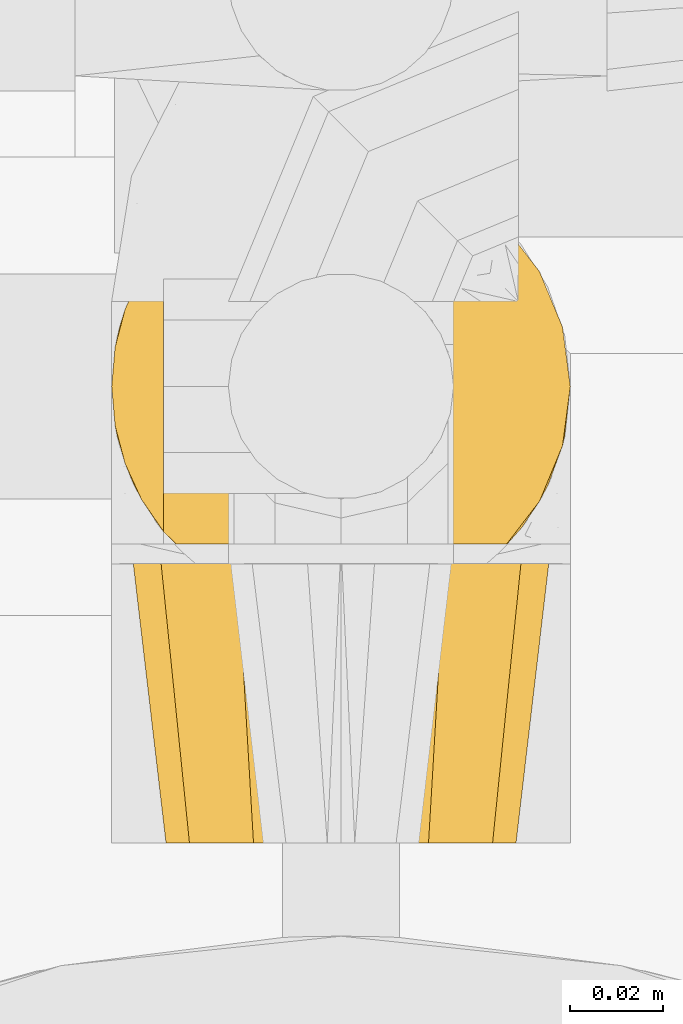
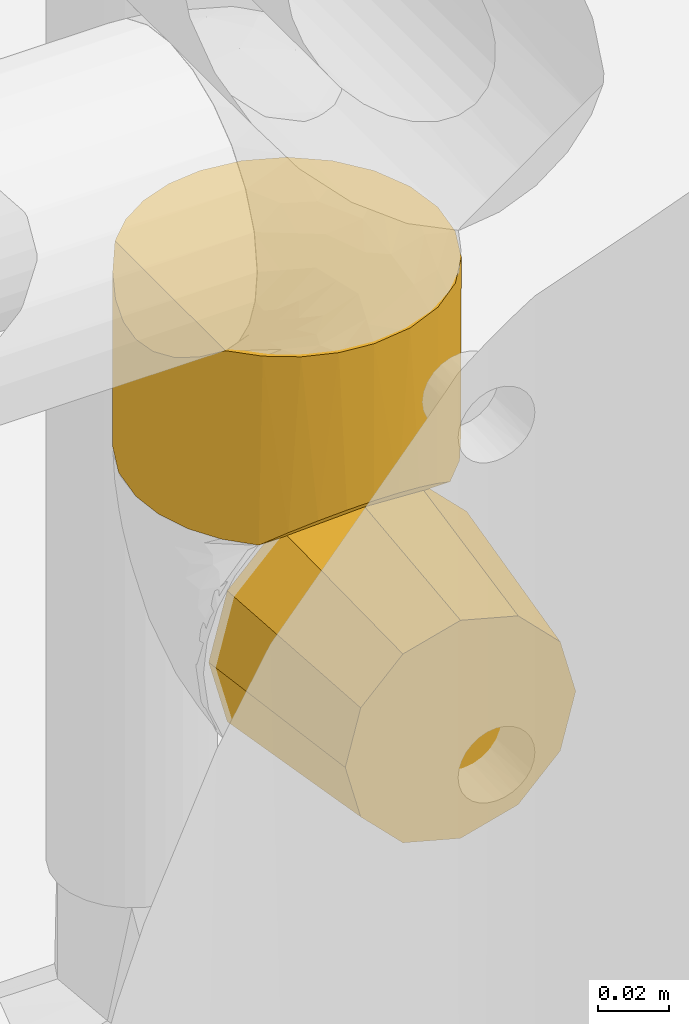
# One storey, part 35 of 94: 2 coverings.
"""IFC2X3 building model written with IfcOpenShell, lengths in millimetres."""

from ifc_helpers import new_model, entity, si_unit, converted_unit, derived_unit, direction, frame, origin, place, context, subcontext, project, spatial, faceted_brep, material, element, save


model = new_model("IFC2X3")

# Units and contexts
model_context = context("Model", 3, precision=0.01, world=origin(), true_north=direction((6.123031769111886e-17, 1.0)))
body_context = subcontext(model_context, "Body", "Model", "MODEL_VIEW")
ifc_project = project(units=[si_unit("LENGTHUNIT", "METRE", prefix="MILLI"), si_unit("AREAUNIT", "SQUARE_METRE"), si_unit("VOLUMEUNIT", "CUBIC_METRE"), converted_unit("PLANEANGLEUNIT", "DEGREE", entity("IfcRatioMeasure", 0.017453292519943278), si_unit("PLANEANGLEUNIT", "RADIAN"), dimensions=[0, 0, 0, 0, 0, 0, 0]), si_unit("MASSUNIT", "GRAM", prefix="KILO"), derived_unit("MASSDENSITYUNIT", [(si_unit("MASSUNIT", "GRAM", prefix="KILO"), 1), (si_unit("LENGTHUNIT", "METRE"), -3)]), derived_unit("IONCONCENTRATIONUNIT", [(si_unit("MASSUNIT", "GRAM", prefix="KILO"), 1), (si_unit("LENGTHUNIT", "METRE"), -3)]), derived_unit("MOMENTOFINERTIAUNIT", [(si_unit("LENGTHUNIT", "METRE"), 4)]), si_unit("TIMEUNIT", "SECOND"), si_unit("FREQUENCYUNIT", "HERTZ"), si_unit("THERMODYNAMICTEMPERATUREUNIT", "DEGREE_CELSIUS"), derived_unit("THERMALTRANSMITTANCEUNIT", [(si_unit("MASSUNIT", "GRAM", prefix="KILO"), 1), (si_unit("THERMODYNAMICTEMPERATUREUNIT", "KELVIN"), -1), (si_unit("TIMEUNIT", "SECOND"), -3)]), derived_unit("THERMALCONDUCTANCEUNIT", [(si_unit("MASSUNIT", "GRAM", prefix="KILO"), 1), (si_unit("THERMODYNAMICTEMPERATUREUNIT", "KELVIN"), -1), (si_unit("TIMEUNIT", "SECOND"), -3), (si_unit("LENGTHUNIT", "METRE"), 1)]), derived_unit("VOLUMETRICFLOWRATEUNIT", [(si_unit("LENGTHUNIT", "METRE"), 3), (si_unit("TIMEUNIT", "SECOND"), -1)]), derived_unit("MASSFLOWRATEUNIT", [(si_unit("MASSUNIT", "GRAM", prefix="KILO"), 1), (si_unit("TIMEUNIT", "SECOND"), -1)]), derived_unit("ROTATIONALFREQUENCYUNIT", [(si_unit("TIMEUNIT", "SECOND"), -1)]), si_unit("ELECTRICCURRENTUNIT", "AMPERE"), si_unit("ELECTRICVOLTAGEUNIT", "VOLT"), si_unit("POWERUNIT", "WATT"), si_unit("FORCEUNIT", "NEWTON", prefix="KILO"), si_unit("ILLUMINANCEUNIT", "LUX"), si_unit("LUMINOUSFLUXUNIT", "LUMEN"), si_unit("LUMINOUSINTENSITYUNIT", "CANDELA"), derived_unit("USERDEFINED", [(si_unit("MASSUNIT", "GRAM", prefix="KILO"), -1), (si_unit("LENGTHUNIT", "METRE"), -2), (si_unit("TIMEUNIT", "SECOND"), 3), (si_unit("LUMINOUSFLUXUNIT", "LUMEN"), 1)]), derived_unit("USERDEFINED", [(si_unit("MASSUNIT", "GRAM", prefix="KILO"), 1), (si_unit("TIMEUNIT", "SECOND"), -3), (si_unit("LENGTHUNIT", "METRE"), 3), (si_unit("ELECTRICCURRENTUNIT", "AMPERE"), -2)]), derived_unit("SOUNDPOWERUNIT", [(si_unit("MASSUNIT", "GRAM", prefix="KILO"), 1), (si_unit("TIMEUNIT", "SECOND"), -3), (si_unit("LENGTHUNIT", "METRE"), 2)]), derived_unit("SOUNDPRESSUREUNIT", [(si_unit("MASSUNIT", "GRAM", prefix="KILO"), 1), (si_unit("LENGTHUNIT", "METRE"), -1), (si_unit("TIMEUNIT", "SECOND"), -2)]), derived_unit("LINEARVELOCITYUNIT", [(si_unit("LENGTHUNIT", "METRE"), 1), (si_unit("TIMEUNIT", "SECOND"), -1)]), si_unit("PRESSUREUNIT", "PASCAL"), derived_unit("USERDEFINED", [(si_unit("MASSUNIT", "GRAM", prefix="KILO"), 1), (si_unit("LENGTHUNIT", "METRE"), -2), (si_unit("TIMEUNIT", "SECOND"), -2)]), derived_unit("LINEARFORCEUNIT", [(si_unit("MASSUNIT", "GRAM", prefix="KILO"), 1), (si_unit("TIMEUNIT", "SECOND"), -2)]), derived_unit("PLANARFORCEUNIT", [(si_unit("MASSUNIT", "GRAM", prefix="KILO"), 1), (si_unit("LENGTHUNIT", "METRE"), -1), (si_unit("TIMEUNIT", "SECOND"), -2)]), derived_unit("SPECIFICHEATCAPACITYUNIT", [(si_unit("THERMODYNAMICTEMPERATUREUNIT", "KELVIN"), -1), (si_unit("LENGTHUNIT", "METRE"), 2), (si_unit("TIMEUNIT", "SECOND"), -2)]), derived_unit("HEATINGVALUEUNIT", [(si_unit("LENGTHUNIT", "METRE"), 2), (si_unit("TIMEUNIT", "SECOND"), -2)]), derived_unit("VAPORPERMEABILITYUNIT", [(si_unit("LENGTHUNIT", "METRE"), -1), (si_unit("TIMEUNIT", "SECOND"), 1)]), derived_unit("DYNAMICVISCOSITYUNIT", [(si_unit("MASSUNIT", "GRAM", prefix="KILO"), 1), (si_unit("TIMEUNIT", "SECOND"), -1), (si_unit("LENGTHUNIT", "METRE"), -1)]), derived_unit("THERMALEXPANSIONCOEFFICIENTUNIT", [(si_unit("THERMODYNAMICTEMPERATUREUNIT", "KELVIN"), -1)]), derived_unit("MODULUSOFELASTICITYUNIT", [(si_unit("MASSUNIT", "GRAM", prefix="KILO"), 1), (si_unit("LENGTHUNIT", "METRE"), -1), (si_unit("TIMEUNIT", "SECOND"), -2)]), derived_unit("ISOTHERMALMOISTURECAPACITYUNIT", [(si_unit("LENGTHUNIT", "METRE"), 3), (si_unit("MASSUNIT", "GRAM", prefix="KILO"), -1)]), derived_unit("MOISTUREDIFFUSIVITYUNIT", [(si_unit("TIMEUNIT", "SECOND"), -1), (si_unit("LENGTHUNIT", "METRE"), 2)])], contexts=[model_context])

# Site, building, storey
site_placement = place(None, origin())
site = spatial("IfcSite", under=ifc_project, at=site_placement, Name="Default", CompositionType="ELEMENT")
building_placement = place(site_placement, origin())
building = spatial("IfcBuilding", under=site, at=building_placement, CompositionType="ELEMENT")
storey_placement = place(building_placement, origin())
storey = spatial("IfcBuildingStorey", under=building, at=storey_placement, Name="Niveau 0", CompositionType="ELEMENT", Elevation=0.0)

# Coverings
ifc_material = material(Name="Isolation - Laine minérale")
covering_1_placement = place(storey_placement, frame((-6334.959732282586, 9224.75240677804, 394.2829489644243)))
element("IfcCovering", 1, at=covering_1_placement, inside=storey, material=ifc_material, Name="Isolation des canalisations:Laine minérale", ObjectType="Isolation des canalisations:Laine minérale", PredefinedType="INSULATION", context=body_context, shape_type="Brep", body=[
    faceted_brep([(93.2731003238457, 26.160272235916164, 66.71705103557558), (98.18120808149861, 38.00949255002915, 66.71705103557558), (99.85527223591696, 50.72527223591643, 66.71705103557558), (98.18120808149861, 63.44105192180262, 66.71705103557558), (93.2731003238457, 75.29027223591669, 66.71705103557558), (85.46542839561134, 85.46542839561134, 66.71705103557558), (75.29027223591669, 93.2731003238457, 66.71705103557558), (63.4410519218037, 98.18120808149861, 66.71705103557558), (50.72527223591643, 99.85527223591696, 66.71705103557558), (39.94049838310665, 98.65694811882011, 66.71705103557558), (29.696487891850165, 95.12737949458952, 66.71705103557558), (20.474956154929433, 89.43799982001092, 66.71705103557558), (12.725272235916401, 81.86619226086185, 66.71705103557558), (12.725272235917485, 19.584352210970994, 66.71705103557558), (20.47495615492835, 12.012544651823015, 66.71705103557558), (29.69648789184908, 6.323164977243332, 66.71705103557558), (39.94049838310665, 2.793596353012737, 66.71705103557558), (50.72527223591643, 1.5952722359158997, 66.71705103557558), (63.4410519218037, 3.26933639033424, 66.71705103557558), (75.29027223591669, 8.17744414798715, 66.71705103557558), (85.46542839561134, 15.985116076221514, 66.71705103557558), (98.18120808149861, 63.44105192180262, 1.595272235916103), (99.85527223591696, 50.72527223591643, 1.595272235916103), (98.65652207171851, 39.938605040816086, 1.595272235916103), (95.12570650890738, 29.692955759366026, 1.595272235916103), (89.43438557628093, 20.470331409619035, 1.595272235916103), (81.86014163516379, 12.720314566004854, 1.595272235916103), (19.59040283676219, 12.72031456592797, 1.595272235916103), (12.016158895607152, 20.470331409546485, 1.595272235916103), (6.32483796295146, 29.692955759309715, 1.595272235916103), (2.7940224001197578, 39.93860504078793, 1.595272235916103), (1.5952722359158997, 50.72527223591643, 1.595272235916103), (3.26933639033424, 63.4410519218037, 1.595272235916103), (8.17744414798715, 75.29027223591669, 1.595272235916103), (15.985116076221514, 85.46542839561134, 1.595272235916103), (26.160272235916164, 93.2731003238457, 1.595272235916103), (38.00949255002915, 98.18120808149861, 1.595272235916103), (50.72527223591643, 99.85527223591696, 1.595272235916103), (63.4410519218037, 98.18120808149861, 1.595272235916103), (75.29027223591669, 93.2731003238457, 1.595272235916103), (85.46542839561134, 85.46542839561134, 1.595272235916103), (93.2731003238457, 75.29027223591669, 1.595272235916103), (2.3170998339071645, 42.33445912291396, 56.30887863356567), (7.965081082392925, 26.531823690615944, 61.95685988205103), (4.461372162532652, 34.19020495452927, 58.4531509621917), (1.5952722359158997, 50.72527223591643, 55.58705103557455), (26.536929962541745, 7.962192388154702, 6.357069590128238), (34.193887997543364, 4.460055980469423, 9.861911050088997), (42.33638597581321, 2.316765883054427, 12.006856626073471), (50.72527223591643, 1.5952722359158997, 12.728907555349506), (59.11415849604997, 2.3167658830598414, 12.006856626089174), (67.25665647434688, 4.460055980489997, 9.86191105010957), (74.91361450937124, 7.9621923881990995, 6.357069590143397), (4.461372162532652, 67.26033951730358, 58.453150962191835), (2.3170998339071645, 59.116085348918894, 56.30887863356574), (7.965081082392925, 74.9187207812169, 61.9568598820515)], [[[0, 1, 2, 3, 4, 5, 6, 7, 8, 9, 10, 11, 12, 13, 14, 15, 16, 17, 18, 19, 20]], [[21, 22, 23, 24, 25, 26, 27, 28, 29, 30, 31, 32, 33, 34, 35, 36, 37, 38, 39, 40, 41]], [[42, 31, 30]], [[29, 28, 43]], [[44, 30, 29]], [[42, 45, 31]], [[43, 44, 29]], [[13, 43, 28]], [[42, 30, 44]], [[28, 27, 13]], [[27, 46, 14]], [[47, 48, 16]], [[46, 47, 15]], [[14, 46, 15]], [[48, 17, 16]], [[16, 15, 47]], [[17, 48, 49]], [[27, 14, 13]], [[50, 51, 18]], [[52, 26, 19]], [[51, 52, 19]], [[49, 50, 17]], [[17, 50, 18]], [[51, 19, 18]], [[26, 20, 19]], [[0, 25, 24]], [[1, 24, 23]], [[2, 23, 22]], [[20, 25, 0]], [[0, 24, 1]], [[23, 2, 1]], [[25, 20, 26]], [[3, 2, 22, 21]], [[4, 3, 21, 41]], [[41, 40, 5, 4]], [[7, 6, 39, 38]], [[8, 7, 38, 37]], [[40, 39, 6, 5]], [[9, 37, 36]], [[10, 36, 35]], [[11, 35, 34]], [[8, 37, 9]], [[9, 36, 10]], [[35, 11, 10]], [[34, 12, 11]], [[53, 33, 32]], [[32, 31, 54]], [[45, 54, 31]], [[55, 12, 33]], [[54, 53, 32]], [[55, 33, 53]], [[33, 12, 34]], [[54, 45, 42, 44, 43, 13, 12, 55, 53]], [[52, 51, 50, 49, 48, 47, 46, 27, 26]]]),
])
covering_2_placement = place(storey_placement, frame((-6330.8297322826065, 9177.68485907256, 311.2747277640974)))
element("IfcCovering", 2, at=covering_2_placement, inside=storey, material=ifc_material, Name="Isolation des canalisations:Laine minérale", ObjectType="Isolation des canalisations:Laine minérale", PredefinedType="INSULATION", context=body_context, shape_type="Brep", body=[
    faceted_brep([(69.09527223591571, 64.0, 7.624129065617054), (59.64612789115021, 64.0, 5.09223846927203), (46.5952722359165, 64.0, 1.5952722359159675), (33.54441639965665, 64.0, 5.092238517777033), (24.095272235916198, 64.0, 7.62412906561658), (15.859700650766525, 64.0, 15.859700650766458), (7.6241290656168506, 64.0, 24.095272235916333), (5.092238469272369, 64.0, 33.544416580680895), (1.5952722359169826, 64.0, 46.59527223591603), (5.092238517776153, 64.0, 59.64612807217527), (7.6241290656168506, 64.0, 69.09527223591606), (15.859700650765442, 64.0, 77.33084382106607), (24.095272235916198, 64.0, 85.56641540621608), (33.54441658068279, 64.0, 88.0983060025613), (46.5952722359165, 64.0, 91.59527223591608), (59.64612807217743, 64.0, 88.09830595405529), (69.0952722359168, 64.0, 85.56641540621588), (77.33084382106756, 64.0, 77.33084382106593), (85.56641540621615, 64.0, 69.09527223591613), (88.09830600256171, 64.0, 59.646127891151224), (91.59527223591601, 64.0, 46.59527223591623), (88.09830595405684, 64.0, 33.54441639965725), (85.56641540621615, 64.0, 24.0952722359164), (77.33084382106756, 64.0, 15.85970065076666), (27.8452722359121, 0.0, 79.07122487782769), (20.982295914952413, 0.0, 72.20824855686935), (14.119319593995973, 0.0, 65.34527223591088), (11.60729591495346, 0.0, 55.97027223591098), (9.095272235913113, 0.0, 46.59527223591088), (11.607295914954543, 0.0, 37.22027223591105), (14.119319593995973, 0.0, 27.84527223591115), (20.982295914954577, 0.0, 20.98229591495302), (27.8452722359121, 0.0, 14.119319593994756), (37.220272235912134, 0.0, 11.60729591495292), (46.59527223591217, 0.0, 9.095272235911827), (55.9702722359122, 0.0, 11.607295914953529), (65.34527223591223, 0.0, 14.119319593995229), (72.20824855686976, 0.0, 20.982295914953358), (79.07122487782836, 0.0, 27.845272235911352), (81.58324855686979, 0.0, 37.22027223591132), (84.0952722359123, 0.0, 46.59527223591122), (81.58324855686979, 0.0, 55.97027223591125), (79.07122487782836, 0.0, 65.34527223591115), (72.20824855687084, 0.0, 72.20824855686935), (65.34527223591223, 0.0, 79.07122487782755), (55.970272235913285, 0.0, 81.58324855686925), (46.59527223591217, 0.0, 84.0952722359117), (37.22027223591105, 0.0, 81.58324855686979)], [[[0, 1, 2, 3, 4, 5, 6, 7, 8, 9, 10, 11, 12, 13, 14, 15, 16, 17, 18, 19, 20, 21, 22, 23]], [[24, 25, 26, 27, 28, 29, 30, 31, 32, 33, 34, 35, 36, 37, 38, 39, 40, 41, 42, 43, 44, 45, 46, 47]], [[38, 22, 21, 20, 40, 39]], [[23, 22, 38, 37, 36, 0]], [[35, 34, 2, 1, 0, 36]], [[32, 4, 3, 2, 34, 33]], [[5, 4, 32, 31, 30, 6]], [[29, 28, 8, 7, 6, 30]], [[26, 10, 9, 8, 28, 27]], [[11, 10, 26, 25, 24, 12]], [[47, 46, 14, 13, 12, 24]], [[44, 16, 15, 14, 46, 45]], [[17, 16, 44, 43, 42, 18]], [[41, 40, 20, 19, 18, 42]]]),
])

save(model, "model.ifc")
